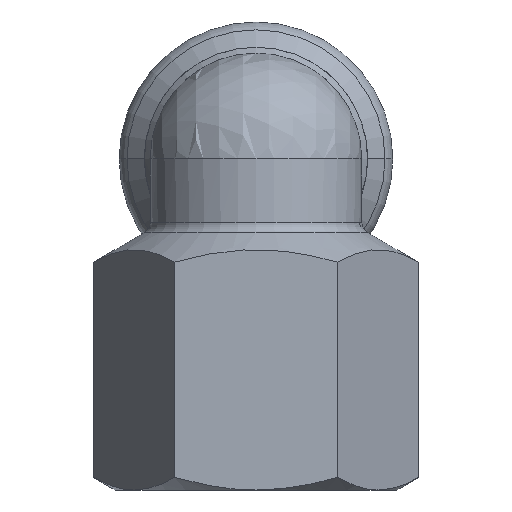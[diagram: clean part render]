
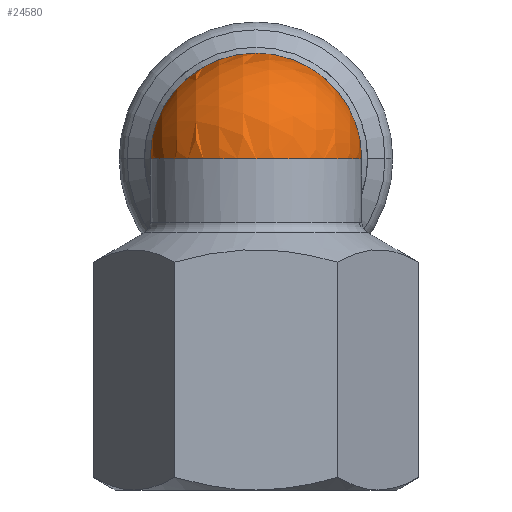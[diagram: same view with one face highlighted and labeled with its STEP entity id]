
A CAD part, left-side view. The second image highlights one B-rep face of the part: STEP entity #24580.
In plain terms, the highlighted spherical face has radius 9 mm.
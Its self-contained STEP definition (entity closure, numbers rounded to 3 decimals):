
#22520=CARTESIAN_POINT('',(38.369,50.43,28.2));
#22530=VERTEX_POINT('',#22520);
#22560=CARTESIAN_POINT('',(38.369,41.43,28.2));
#22570=DIRECTION('',(0.,0.,1.));
#22580=DIRECTION('',(1.,0.,0.));
#22590=AXIS2_PLACEMENT_3D('',#22560,#22570,#22580);
#22600=CIRCLE('',#22590,9.);
#22610=CARTESIAN_POINT('',(38.369,32.43,28.2));
#22620=VERTEX_POINT('',#22610);
#22630=EDGE_CURVE('',#22530,#22620,#22600,.T.);
#22950=CARTESIAN_POINT('',(38.369,41.43,28.2));
#22960=DIRECTION('',(-1.,0.,0.));
#22970=DIRECTION('',(0.,1.,-0.));
#22980=AXIS2_PLACEMENT_3D('',#22950,#22960,#22970);
#22990=CIRCLE('',#22980,9.);
#23000=EDGE_CURVE('',#22620,#22530,#22990,.T.);
#24490=CARTESIAN_POINT('',(38.369,41.43,28.2));
#24500=DIRECTION('',(0.,-1.,0.));
#24510=DIRECTION('',(0.,0.,1.));
#24520=AXIS2_PLACEMENT_3D('',#24490,#24500,#24510);
#24530=SPHERICAL_SURFACE('',#24520,9.);
#24540=ORIENTED_EDGE('',*,*,#22630,.T.);
#24550=ORIENTED_EDGE('',*,*,#23000,.T.);
#24560=EDGE_LOOP('',(#24550,#24540));
#24570=FACE_OUTER_BOUND('',#24560,.T.);
#24580=ADVANCED_FACE('',(#24570),#24530,.T.);
